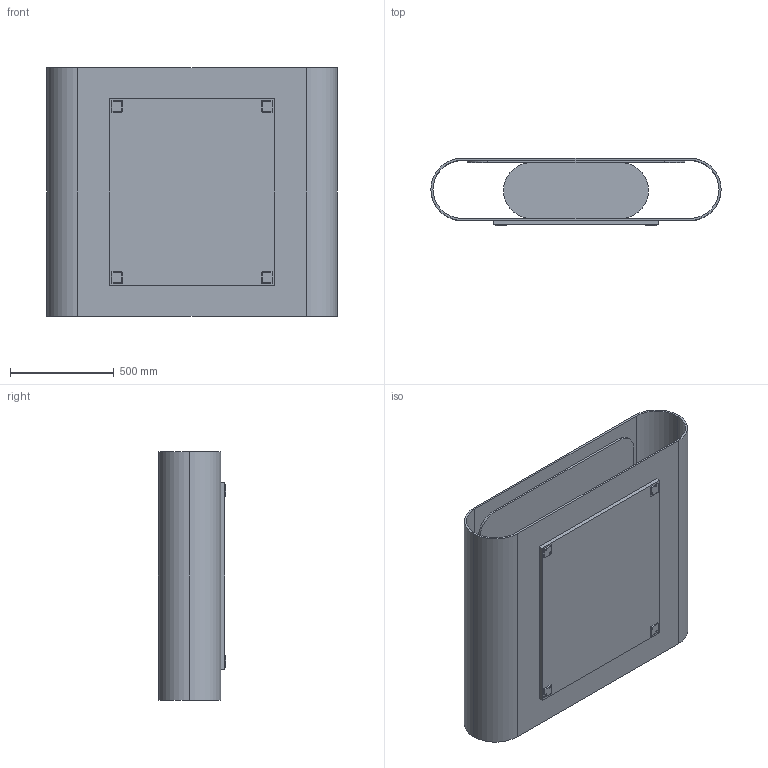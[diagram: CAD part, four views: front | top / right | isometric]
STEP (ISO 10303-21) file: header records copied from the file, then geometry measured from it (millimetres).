
FILE_DESCRIPTION (( 'STEP AP214' ), '1' );
FILE_NAME ('Tavolino_1200x1400_ASSIEME.STEP', '2026-05-04T10:59:30', ( '' ), ( '' ), 'SwSTEP 2.0', 'SolidWorks 2025', '' );
FILE_SCHEMA (( 'AUTOMOTIVE_DESIGN' ));
Length unit declared in the file: millimetre
Products named in the file (6): Tavolino_ZOCCOLO_1200 x 1400; Tavolino_1200x1400_ASSIEME; PIEDINO_IPEA; Tavolino_VETRO_120 x140; Tavolino_INTERNO; Tavolino_STRUTTURA_1200 x1400
Assembly tree (8 placements, depth 2):
  Tavolino_1200x1400_ASSIEME
    Tavolino_STRUTTURA_1200 x1400
    Tavolino_ZOCCOLO_1200 x 1400
    PIEDINO_IPEA  x4
    Tavolino_INTERNO
    Tavolino_VETRO_120 x140
Bounding box: 1400 x 324 x 1200 mm (x, y, z)
Volume: 64446374 mm3; surface area: 11661251.2 mm2
Topology: 8 solids, 8 shells, 331 faces, 929 edges, 566 vertices
Faces by surface type: cylinder 161, sphere 100, plane 54, torus 16
Entity records: 3975 total; most frequent: CARTESIAN_POINT 743, DIRECTION 710, ORIENTED_EDGE 594, EDGE_CURVE 297, AXIS2_PLACEMENT_3D 295, VERTEX_POINT 192, CIRCLE 157, EDGE_LOOP 141
